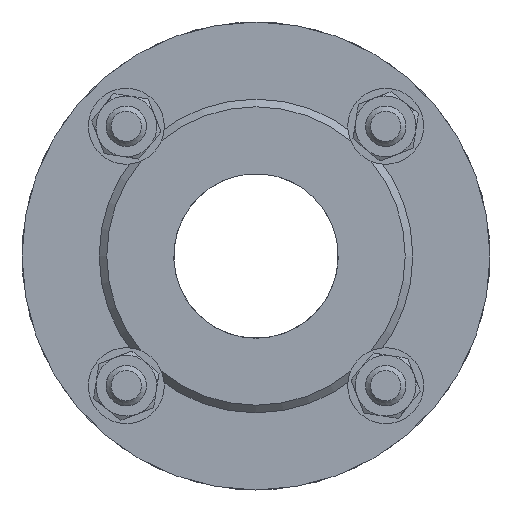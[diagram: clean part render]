
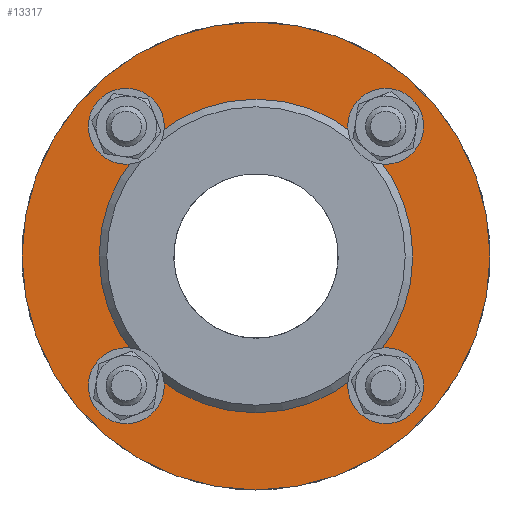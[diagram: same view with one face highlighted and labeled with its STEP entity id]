
A CAD part, left-side view. The second image highlights one B-rep face of the part: STEP entity #13317.
In plain terms, the highlighted planar face has unit normal (-1, 0, 0).
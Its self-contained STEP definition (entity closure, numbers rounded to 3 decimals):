
#73 = CARTESIAN_POINT ( 'NONE',  ( -86.67, 0., 0. ) ) ;
#277 = EDGE_LOOP ( 'NONE', ( #2791 ) ) ;
#593 = EDGE_CURVE ( 'NONE', #2903, #2903, #2627, .T. ) ;
#758 = EDGE_LOOP ( 'NONE', ( #6702 ) ) ;
#812 = DIRECTION ( 'NONE',  ( 0., 1., 0. ) ) ;
#1174 = AXIS2_PLACEMENT_3D ( 'NONE', #73, #7398, #6101 ) ;
#1336 = DIRECTION ( 'NONE',  ( 0., 0., -1. ) ) ;
#2023 = VERTEX_POINT ( 'NONE', #7899 ) ;
#2097 = CARTESIAN_POINT ( 'NONE',  ( -86.67, 0., 92.5 ) ) ;
#2130 = AXIS2_PLACEMENT_3D ( 'NONE', #5749, #5829, #1336 ) ;
#2211 = AXIS2_PLACEMENT_3D ( 'NONE', #14688, #12330, #8679 ) ;
#2622 = EDGE_CURVE ( 'NONE', #2023, #2023, #8260, .T. ) ;
#2627 = CIRCLE ( 'NONE', #2130, 8. ) ;
#2791 = ORIENTED_EDGE ( 'NONE', *, *, #13622, .T. ) ;
#2808 = EDGE_CURVE ( 'NONE', #7133, #7133, #6550, .T. ) ;
#2903 = VERTEX_POINT ( 'NONE', #5262 ) ;
#3155 = VERTEX_POINT ( 'NONE', #14816 ) ;
#3267 = EDGE_LOOP ( 'NONE', ( #3747 ) ) ;
#3747 = ORIENTED_EDGE ( 'NONE', *, *, #593, .F. ) ;
#4054 = DIRECTION ( 'NONE',  ( -1., 0., 0. ) ) ;
#4463 = FACE_BOUND ( 'NONE', #758, .T. ) ;
#5262 = CARTESIAN_POINT ( 'NONE',  ( -86.67, 51.265, -59.265 ) ) ;
#5277 = DIRECTION ( 'NONE',  ( 0., 0., -1. ) ) ;
#5749 = CARTESIAN_POINT ( 'NONE',  ( -86.67, 51.265, -51.265 ) ) ;
#5800 = AXIS2_PLACEMENT_3D ( 'NONE', #11158, #4054, #5277 ) ;
#5829 = DIRECTION ( 'NONE',  ( -1., 0., 0. ) ) ;
#5869 = EDGE_LOOP ( 'NONE', ( #9738 ) ) ;
#6101 = DIRECTION ( 'NONE',  ( 0., -1., 0. ) ) ;
#6223 = VERTEX_POINT ( 'NONE', #9663 ) ;
#6481 = AXIS2_PLACEMENT_3D ( 'NONE', #7089, #11668, #12733 ) ;
#6550 = CIRCLE ( 'NONE', #1174, 62. ) ;
#6702 = ORIENTED_EDGE ( 'NONE', *, *, #2808, .F. ) ;
#6825 = FACE_OUTER_BOUND ( 'NONE', #277, .T. ) ;
#7089 = CARTESIAN_POINT ( 'NONE',  ( -86.67, -51.265, -51.265 ) ) ;
#7133 = VERTEX_POINT ( 'NONE', #12699 ) ;
#7398 = DIRECTION ( 'NONE',  ( -1., 0., 0. ) ) ;
#7429 = DIRECTION ( 'NONE',  ( 0., 0., -1. ) ) ;
#7561 = ORIENTED_EDGE ( 'NONE', *, *, #10182, .F. ) ;
#7604 = EDGE_LOOP ( 'NONE', ( #7561 ) ) ;
#7620 = FACE_BOUND ( 'NONE', #5869, .T. ) ;
#7899 = CARTESIAN_POINT ( 'NONE',  ( -86.67, -51.265, 43.265 ) ) ;
#8260 = CIRCLE ( 'NONE', #5800, 8. ) ;
#8472 = EDGE_LOOP ( 'NONE', ( #9929 ) ) ;
#8679 = DIRECTION ( 'NONE',  ( 0., -1., 0. ) ) ;
#9663 = CARTESIAN_POINT ( 'NONE',  ( -86.67, -51.265, -59.265 ) ) ;
#9738 = ORIENTED_EDGE ( 'NONE', *, *, #2622, .F. ) ;
#9929 = ORIENTED_EDGE ( 'NONE', *, *, #11168, .F. ) ;
#10182 = EDGE_CURVE ( 'NONE', #6223, #6223, #11347, .T. ) ;
#10418 = PLANE ( 'NONE',  #13491 ) ;
#10631 = CARTESIAN_POINT ( 'NONE',  ( -86.67, 51.265, 51.265 ) ) ;
#10649 = AXIS2_PLACEMENT_3D ( 'NONE', #10631, #10865, #7429 ) ;
#10865 = DIRECTION ( 'NONE',  ( -1., 0., 0. ) ) ;
#11158 = CARTESIAN_POINT ( 'NONE',  ( -86.67, -51.265, 51.265 ) ) ;
#11168 = EDGE_CURVE ( 'NONE', #3155, #3155, #13793, .T. ) ;
#11347 = CIRCLE ( 'NONE', #6481, 8. ) ;
#11389 = CARTESIAN_POINT ( 'NONE',  ( -86.67, -92.5, 0. ) ) ;
#11668 = DIRECTION ( 'NONE',  ( -1., 0., 0. ) ) ;
#11695 = VERTEX_POINT ( 'NONE', #11389 ) ;
#12330 = DIRECTION ( 'NONE',  ( -1., 0., 0. ) ) ;
#12558 = FACE_BOUND ( 'NONE', #7604, .T. ) ;
#12692 = CIRCLE ( 'NONE', #2211, 92.5 ) ;
#12699 = CARTESIAN_POINT ( 'NONE',  ( -86.67, -62., 0. ) ) ;
#12733 = DIRECTION ( 'NONE',  ( 0., 0., -1. ) ) ;
#13317 = ADVANCED_FACE ( 'NONE', ( #14489, #13418, #7620, #12558, #4463, #6825 ), #10418, .F. ) ;
#13418 = FACE_BOUND ( 'NONE', #3267, .T. ) ;
#13491 = AXIS2_PLACEMENT_3D ( 'NONE', #2097, #13629, #812 ) ;
#13622 = EDGE_CURVE ( 'NONE', #11695, #11695, #12692, .T. ) ;
#13629 = DIRECTION ( 'NONE',  ( 1., 0., 0. ) ) ;
#13793 = CIRCLE ( 'NONE', #10649, 8. ) ;
#14489 = FACE_BOUND ( 'NONE', #8472, .T. ) ;
#14688 = CARTESIAN_POINT ( 'NONE',  ( -86.67, 0., 0. ) ) ;
#14816 = CARTESIAN_POINT ( 'NONE',  ( -86.67, 51.265, 43.265 ) ) ;
